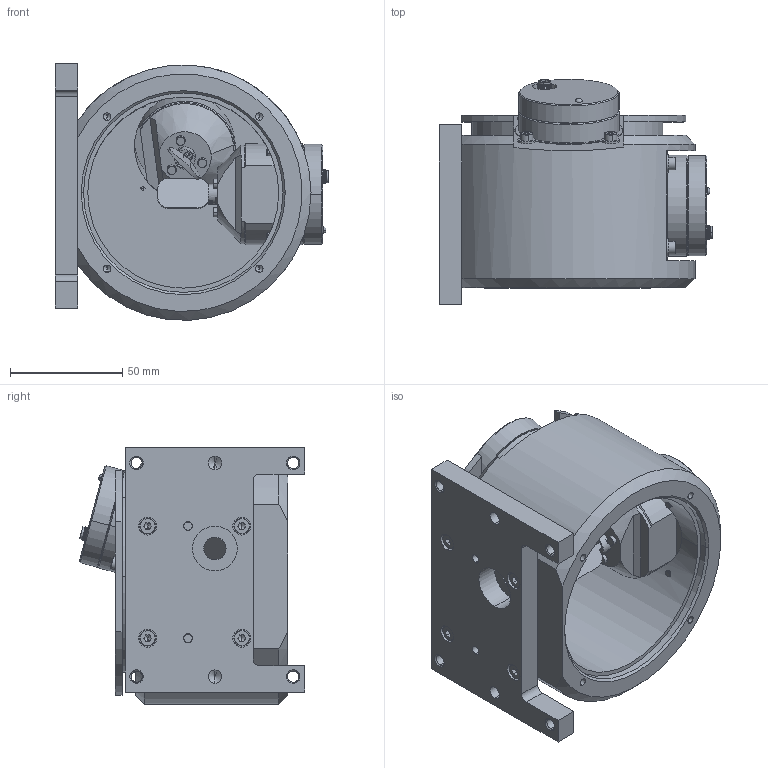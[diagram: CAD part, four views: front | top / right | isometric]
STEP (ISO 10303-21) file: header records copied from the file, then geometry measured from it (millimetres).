
FILE_DESCRIPTION (( 'STEP AP214' ), '1' );
FILE_NAME ('2D_MSA_A10_SiC.STEP', '2019-06-06T09:48:03', ( '' ), ( '' ), 'SwSTEP 2.0', 'SolidWorks 2011', '' );
FILE_SCHEMA (( 'AUTOMOTIVE_DESIGN' ));
Length unit declared in the file: millimetre
Products named in the file (14): parallel pin hardened_iso_Parallel Pin ISO 8734 - 4 x 10 - A - St; socket head cap screw_iso_ISO 4762 M3 x 8 --- 8N; plain washer 10673 type snl_iso_ISO 10673-3.2-N; socket head cap screw_iso_ISO 4762 M4 x 12 --- 12C; RTAY_A10_SiC; A10_SiC_MirrorY; RTAX_A10_SiC; socket head cap screw_iso_ISO 4762 M2 x 5 --- 5N; A10_SiC_MirrorX; Scanner_Draw06_4; Scanner_Solid; rhothor_montage_plaat_Draw01_3; rhothor_motorblok_A10_Draw02_5; 2D_MSA_A10_SiC
Assembly tree (36 placements, depth 3):
  2D_MSA_A10_SiC
    socket head cap screw_iso_ISO 4762 M3 x 8 --- 8N  x8
    socket head cap screw_iso_ISO 4762 M4 x 12 --- 12C  x4
    RTAY_A10_SiC
      socket head cap screw_iso_ISO 4762 M2 x 5 --- 5N  x2
      A10_SiC_MirrorY
      Scanner_Draw06_4
      Scanner_Solid
    RTAX_A10_SiC
      socket head cap screw_iso_ISO 4762 M2 x 5 --- 5N  x2
      Scanner_Draw06_4
      Scanner_Solid
      A10_SiC_MirrorX
    plain washer 10673 type snl_iso_ISO 10673-3.2-N  x8
    rhothor_motorblok_A10_Draw02_5
    rhothor_montage_plaat_Draw01_3
    parallel pin hardened_iso_Parallel Pin ISO 8734 - 4 x 10 - A - St  x2
Bounding box: 121.8 x 100.44 x 114.48 mm (x, y, z)
Volume: 499740.3 mm3; surface area: 110109.9 mm2
Topology: 34 solids, 34 shells, 1000 faces, 2271 edges, 1360 vertices
Faces by surface type: plane 403, cylinder 312, cone 198, torus 80, bspline 7
Entity records: 16636 total; most frequent: CARTESIAN_POINT 3314, DIRECTION 2498, ORIENTED_EDGE 2186, EDGE_CURVE 1093, AXIS2_PLACEMENT_3D 992, VERTEX_POINT 683, EDGE_LOOP 562, LINE 514
